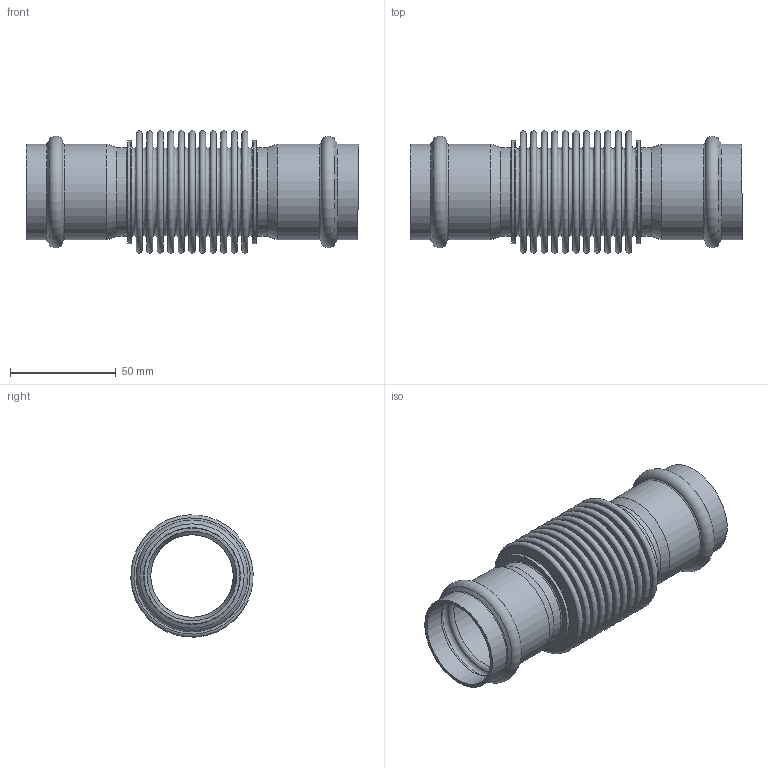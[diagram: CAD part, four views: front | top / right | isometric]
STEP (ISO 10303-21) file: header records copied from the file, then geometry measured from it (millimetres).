
FILE_DESCRIPTION((''),'2;1');
FILE_NAME('G:\Nirosan-Schmiedefeld\Technics\CAD\001 Serie 9.000\042\69872L42H(0).stp','2018-09-11T15:34:16',('herberg'),(''),'Autodesk Inventor 2009','Autodesk Inventor 2009','');
FILE_SCHEMA(('AUTOMOTIVE_DESIGN { 1 0 10303 214 1 1 1 1 }'));
Length unit declared in the file: millimetre
Products named in the file (3): 69872L42H(0); 69HMB42p(0); 69488L42P(0)
Assembly tree (3 placements, depth 2):
  69872L42H(0)
    69HMB42p(0)  x2
    69488L42P(0)
Bounding box: 157 x 57.8 x 57.8 mm (x, y, z)
Volume: 37432.6 mm3; surface area: 101569.8 mm2
Topology: 3 solids, 3 shells, 140 faces, 232 edges, 146 vertices
Faces by surface type: plane 54, bspline 36, torus 26, cylinder 16, cone 8
Full cylindrical faces by diameter (mm): 39 x2, 42 x2, 42.3 x4, 45.3 x4, 49 x4
Entity records: 4533 total; most frequent: CARTESIAN_POINT 2544, DIRECTION 424, ORIENTED_EDGE 236, EDGE_LOOP 236, AXIS2_PLACEMENT_3D 212, VERTEX_POINT 118, CIRCLE 118, EDGE_CURVE 118
